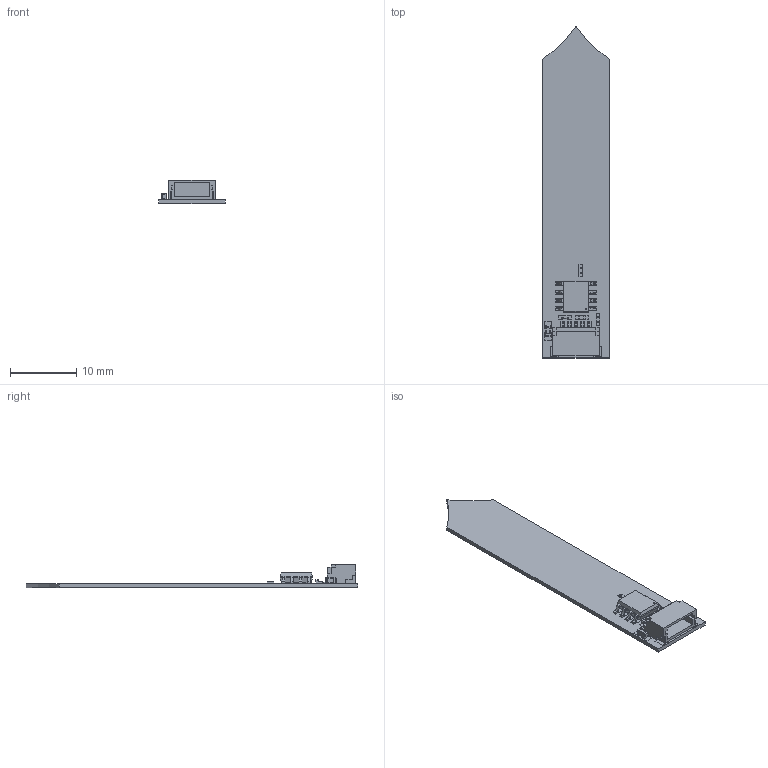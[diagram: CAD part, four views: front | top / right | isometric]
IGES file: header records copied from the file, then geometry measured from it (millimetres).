
Global section: file name: Filename.iges; native system: Open CASCADE 7.4; preprocessor: Open CASCADE IGES processor 7.4; date: 20200810.142546; units: millimetre
Bounding box: 10 x 50 x 3.5 mm (x, y, z)
Surface area: 1347.5 mm2 (no closed solid volume)
Topology: 0 solids, 0 shells, 660 faces, 3422 edges, 4718 vertices
Faces by surface type: plane 526, revolution 134
